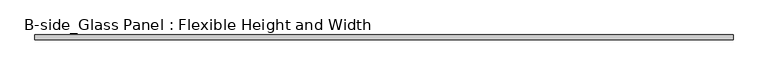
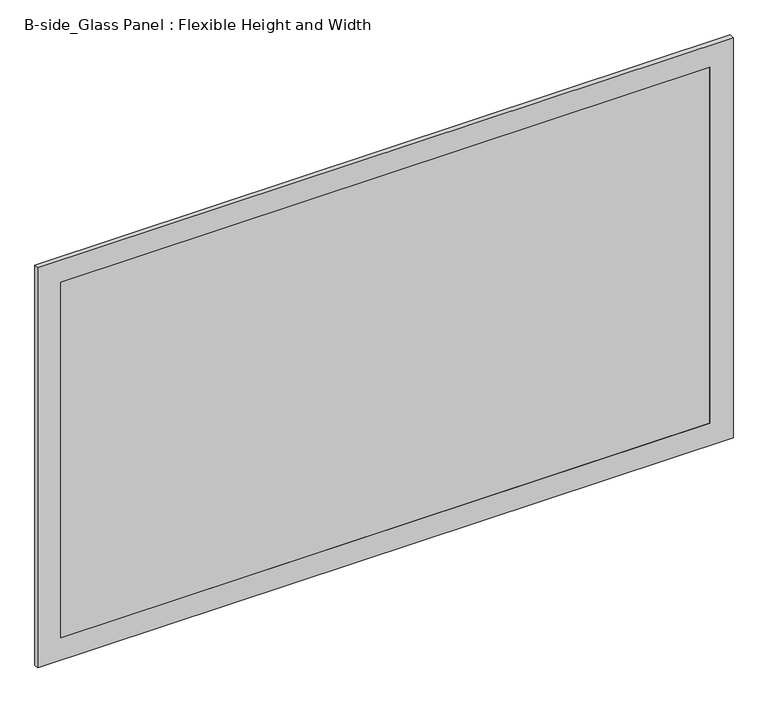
"""IFC4 building model written with IfcOpenShell, lengths in millimetres: proxy geometry, B-side_Glass Panel : Flexible Height and Width."""

from ifc_helpers import new_model, si_unit, frame, origin, place, context, project, spatial, polyline, outline, extrude, source, transform, mapped, element, save


def b_side_glass_panel_flexible_height_and_width_ffa260e1(model_context):
    return source(origin(), model_context, "Body", "SweptSolid", [
        extrude(outline(polyline([(904.0, 1487.0), (904.0, 0.0), (0.0, 0.0), (0.0, 1487.0), (904.0, 1487.0)]), holes=[polyline([(854.0, 50.0), (854.0, 1437.0), (50.0, 1437.0), (50.0, 50.0), (854.0, 50.0)])]), frame((0.0, -10.0, 0.0), z_axis=(0.0, 1.0, 0.0), x_axis=(0.0, 0.0, 1.0)), (0.0, 0.0, 1.0), 10.0),
        extrude(outline(polyline([(1437.0, -10.0), (50.0, -10.0), (50.0, 0.0), (1437.0, 0.0), (1437.0, -10.0)])), frame((0.0, 0.0, 50.0), z_axis=(0.0, 0.0, 1.0), x_axis=(1.0, 0.0, 0.0)), (0.0, 0.0, 1.0), 804.0),
    ])


if __name__ == "__main__":
    model = new_model("IFC4")
    model_context = context("Model", 3, world=origin())
    ifc_project = project(units=[si_unit("LENGTHUNIT", "METRE", prefix="MILLI")], contexts=[model_context])
    site = spatial("IfcSite", under=ifc_project)
    building = spatial("IfcBuilding", under=site)
    placement = place(None, origin())
    b_side_glass_panel_flexible_height_and_width_shape = b_side_glass_panel_flexible_height_and_width_ffa260e1(model_context)
    element("IfcBuildingElementProxy", 1, Name="B-side_Glass Panel : Flexible Height and Width", ObjectType="B-side_Glass Panel : Flexible Height and Width", at=placement, inside=building, context=model_context, shape_type="MappedRepresentation", body=[
        mapped(b_side_glass_panel_flexible_height_and_width_shape, transform((0.0, 0.0, 0.0), x_axis=(1.0, 0.0, 0.0), y_axis=(0.0, 1.0, 0.0), z_axis=(0.0, 0.0, 1.0))),
    ])
    save(model, "model.ifc")
